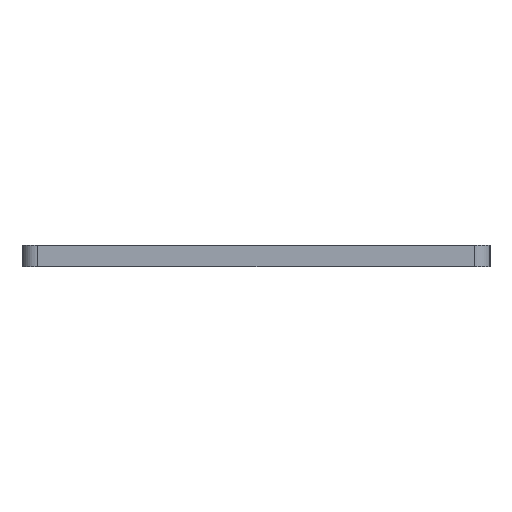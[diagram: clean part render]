
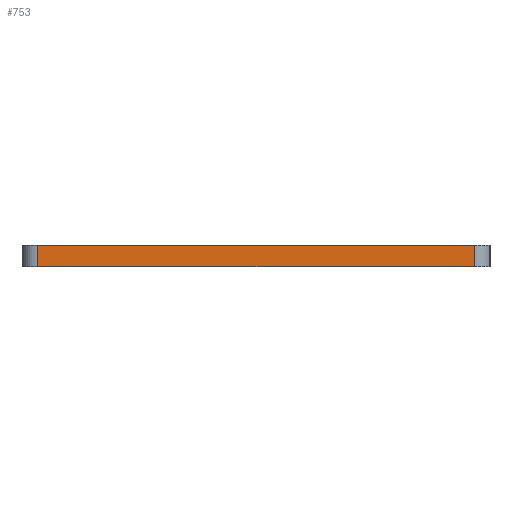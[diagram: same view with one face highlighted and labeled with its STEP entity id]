
A CAD part, left-side view. The second image highlights one B-rep face of the part: STEP entity #753.
In plain terms, the highlighted planar face has unit normal (-1, 0, 0).
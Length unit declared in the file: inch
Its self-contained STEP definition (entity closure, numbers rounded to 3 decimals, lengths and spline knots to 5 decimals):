
#33=DIRECTION('',(0.,-1.,0.));
#34=VECTOR('',#33,3.23378);
#35=CARTESIAN_POINT('',(-4.625,1.61689,0.));
#36=LINE('',#35,#34);
#169=DIRECTION('',(0.,0.,1.));
#170=VECTOR('',#169,0.15748);
#171=CARTESIAN_POINT('',(-4.625,1.61689,-0.15748));
#172=LINE('',#171,#170);
#173=DIRECTION('',(0.,0.,1.));
#174=VECTOR('',#173,0.15748);
#175=CARTESIAN_POINT('',(-4.625,-1.61689,-0.15748));
#176=LINE('',#175,#174);
#206=DIRECTION('',(0.,-1.,0.));
#207=VECTOR('',#206,3.23378);
#208=CARTESIAN_POINT('',(-4.625,1.61689,-0.15748));
#209=LINE('',#208,#207);
#562=CARTESIAN_POINT('',(-4.625,1.61689,0.));
#564=VERTEX_POINT('',#562);
#565=CARTESIAN_POINT('',(-4.625,1.61689,-0.15748));
#566=VERTEX_POINT('',#565);
#569=CARTESIAN_POINT('',(-4.625,-1.61689,0.));
#571=VERTEX_POINT('',#569);
#575=CARTESIAN_POINT('',(-4.625,-1.61689,-0.15748));
#576=VERTEX_POINT('',#575);
#740=CARTESIAN_POINT('',(-4.625,0.,-0.07874));
#741=DIRECTION('',(-1.,0.,0.));
#742=DIRECTION('',(0.,-1.,0.));
#743=AXIS2_PLACEMENT_3D('',#740,#741,#742);
#744=PLANE('',#743);
#745=ORIENTED_EDGE('',*,*,#731,.T.);
#746=ORIENTED_EDGE('',*,*,#644,.T.);
#748=ORIENTED_EDGE('',*,*,#747,.F.);
#750=ORIENTED_EDGE('',*,*,#749,.F.);
#751=EDGE_LOOP('',(#745,#746,#748,#750));
#752=FACE_OUTER_BOUND('',#751,.F.);
#753=ADVANCED_FACE('',(#752),#744,.T.);
#644=EDGE_CURVE('',#564,#571,#36,.T.);
#731=EDGE_CURVE('',#566,#564,#172,.T.);
#747=EDGE_CURVE('',#576,#571,#176,.T.);
#749=EDGE_CURVE('',#566,#576,#209,.T.);
